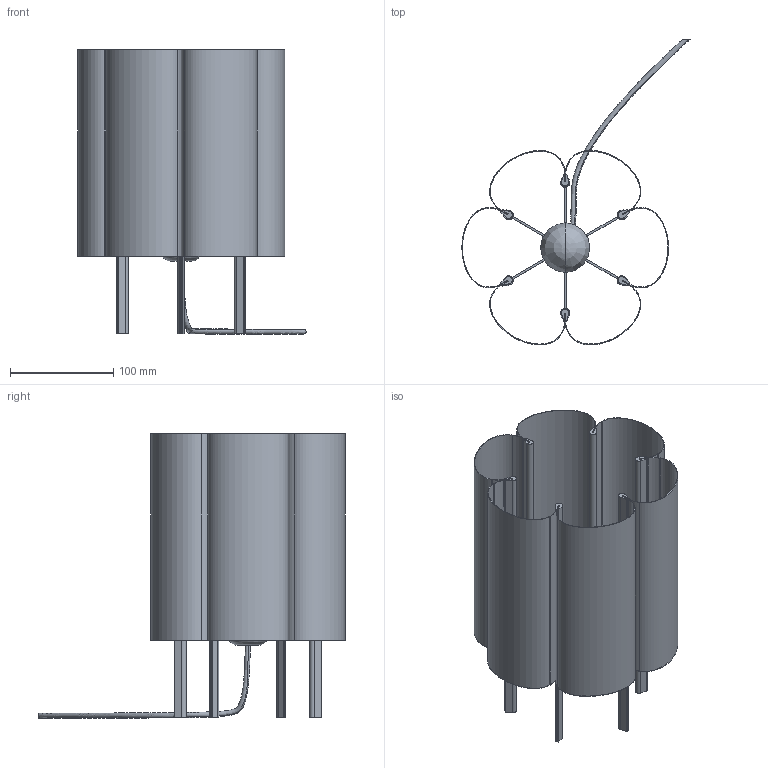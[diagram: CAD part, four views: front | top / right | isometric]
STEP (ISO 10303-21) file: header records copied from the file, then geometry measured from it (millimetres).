
FILE_DESCRIPTION(/* description */ (''),/* implementation_level */ '2;1');
FILE_NAME(/* name */ 'Boe Table Lamp - H28',/* time_stamp */ '2025-07-24T15:04:32+02:00',/* author */ (''),/* organization */ (''),/* preprocessor_version */ 'ST-DEVELOPER v19.2',/* originating_system */ 'Rhino 8.19',/* authorisation */ '');
FILE_SCHEMA (('CONFIG_CONTROL_DESIGN'));
Length unit declared in the file: millimetre
Products named in the file (1): Document
Bounding box: 220.87 x 296.1 x 275.32 mm (x, y, z)
Volume: 254226.4 mm3; surface area: 498543.4 mm2
Topology: 24 solids, 64 shells, 349 faces, 886 edges, 622 vertices
Faces by surface type: plane 271, bspline 48, cylinder 30
Entity records: 14343 total; most frequent: CARTESIAN_POINT 8212, ORIENTED_EDGE 1608, EDGE_CURVE 882, VERTEX_POINT 622, B_SPLINE_CURVE_WITH_KNOTS 460, DIRECTION 459, AXIS2_PLACEMENT_3D 380, EDGE_LOOP 354
